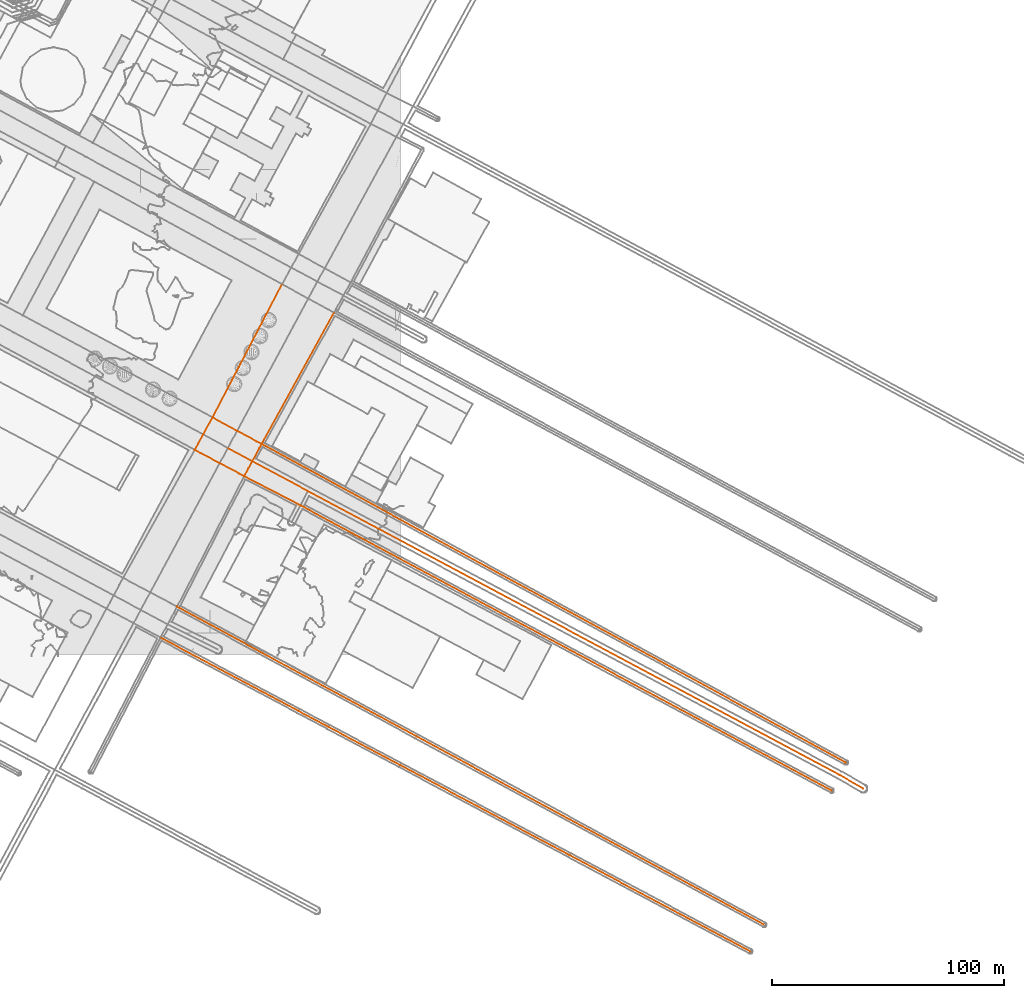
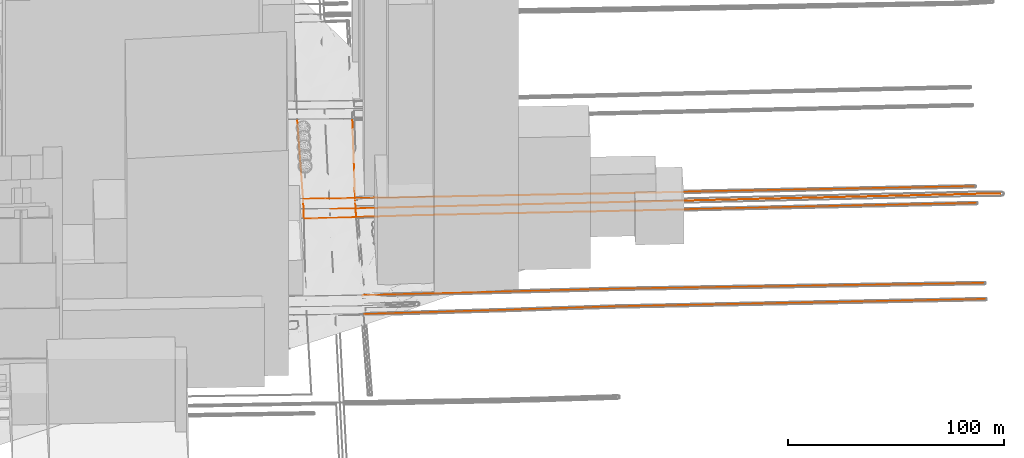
# Not in any storey, part 64 of 76: 11 proxies.
"""IFC2X3 model written with IfcOpenShell, lengths in metres."""

from ifc_helpers import new_model, entity, si_unit, frame, origin_with_axes, place, context, subcontext, project, element, save


model = new_model("IFC2X3")

# Units and contexts
model_context = context("Model", 3, precision=1e-05, world=origin_with_axes())
body_context = subcontext(model_context, "Body", "Model", "MODEL_VIEW")
ifc_project = project(units=[si_unit("AREAUNIT", "SQUARE_METRE"), si_unit("LENGTHUNIT", "METRE")], contexts=[model_context])

# Proxies
proxy_1_placement = place(None, frame((268.6801449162, 7.5070359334, 19.2499281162), z_axis=(0.0, 0.0, 1.0), x_axis=(1.0, 0.0, 0.0)))
element("IfcBuildingElementProxy", 1, at=proxy_1_placement, Name="Route 6", ObjectType="NOTDEFINED", context=body_context, shape_type="GeometricCurveSet", body=[
    entity("IfcGeometricCurveSet", [entity("IfcPolyline", [entity("IfcCartesianPoint", [0.0, 0.0, 0.0]), entity("IfcCartesianPoint", [59.5367895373, -31.6700436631, 0.7634305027]), entity("IfcCartesianPoint", [72.4908163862, -38.5691243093, 1.0172598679]), entity("IfcCartesianPoint", [103.3850234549, -55.0069801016, 1.4969382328]), entity("IfcCartesianPoint", [176.488415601, -93.8899418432, 1.5300706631]), entity("IfcCartesianPoint", [254.451647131, -135.3689274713, 1.5300706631])])]),
])
proxy_2_placement = place(None, frame((312.3134198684, 91.0597884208, 19.0259794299), z_axis=(0.0, 0.0, 1.0), x_axis=(1.0, 0.0, 0.0)))
element("IfcBuildingElementProxy", 2, at=proxy_2_placement, Name="Route 12", ObjectType="NOTDEFINED", context=body_context, shape_type="GeometricCurveSet", body=[
    entity("IfcGeometricCurveSet", [entity("IfcPolyline", [entity("IfcCartesianPoint", [0.0, 0.0, 0.0]), entity("IfcCartesianPoint", [252.050802, -137.416036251, 1.7540193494])])]),
])
proxy_3_placement = place(None, frame((297.7553175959, 89.2915826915, 19.0604681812), z_axis=(0.0, 0.0, 1.0), x_axis=(1.0, 0.0, 0.0)))
element("IfcBuildingElementProxy", 3, at=proxy_3_placement, Name="Route 13", ObjectType="NOTDEFINED", context=body_context, shape_type="GeometricCurveSet", body=[
    entity("IfcGeometricCurveSet", [entity("IfcPolyline", [entity("IfcCartesianPoint", [0.0, 0.0, 0.0]), entity("IfcCartesianPoint", [10.5589808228, -5.6724575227, 0.0619241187]), entity("IfcCartesianPoint", [34.5142174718, -18.5386045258, 0.3927505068]), entity("IfcCartesianPoint", [263.8944051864, -141.030817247, 1.7195305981]), entity("IfcCartesianPoint", [274.2029087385, -146.9056740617, 1.7195305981])])]),
])
proxy_4_placement = place(None, frame((304.8273657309, 77.1392212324, 19.3971872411), z_axis=(0.0, 0.0, 1.0), x_axis=(1.0, 0.0, 0.0)))
element("IfcBuildingElementProxy", 4, at=proxy_4_placement, Name="Route 14", ObjectType="NOTDEFINED", context=body_context, shape_type="GeometricCurveSet", body=[
    entity("IfcGeometricCurveSet", [entity("IfcPolyline", [entity("IfcCartesianPoint", [0.0, 0.0, 0.0]), entity("IfcCartesianPoint", [23.4401593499, -12.1283051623, 0.1413817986]), entity("IfcCartesianPoint", [24.2387379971, -12.5630962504, 0.1592958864]), entity("IfcCartesianPoint", [253.4146507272, -135.6240112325, 1.3828115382])])]),
])
proxy_5_placement = place(None, frame((275.8442647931, 20.8131907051, 19.3619899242), z_axis=(0.0, 0.0, 1.0), x_axis=(1.0, 0.0, 0.0)))
element("IfcBuildingElementProxy", 5, at=proxy_5_placement, Name="Route 15", ObjectType="NOTDEFINED", context=body_context, shape_type="GeometricCurveSet", body=[
    entity("IfcGeometricCurveSet", [entity("IfcPolyline", [entity("IfcCartesianPoint", [253.2904956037, -137.1696919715, 1.418008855]), entity("IfcCartesianPoint", [103.2944743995, -55.9405224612, 1.418008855]), entity("IfcCartesianPoint", [0.0, 0.0, 0.0])])]),
])
proxy_6_placement = place(None, frame((291.1099213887, 102.5036311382, 19.0963599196), z_axis=(0.0, 0.0, 1.0), x_axis=(1.0, 0.0, 0.0)))
element("IfcBuildingElementProxy", 6, at=proxy_6_placement, Name="Route 40", ObjectType="NOTDEFINED", context=body_context, shape_type="GeometricCurveSet", body=[
    entity("IfcGeometricCurveSet", [entity("IfcPolyline", [entity("IfcCartesianPoint", [30.0161975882, 57.4594671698, -0.5590079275]), entity("IfcCartesianPoint", [0.0, 0.0, 0.0])])]),
])
proxy_7_placement = place(None, frame((312.3134198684, 91.0597884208, 19.0259794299), z_axis=(0.0, 0.0, 1.0), x_axis=(1.0, 0.0, 0.0)))
element("IfcBuildingElementProxy", 7, at=proxy_7_placement, Name="Route 41", ObjectType="NOTDEFINED", context=body_context, shape_type="GeometricCurveSet", body=[
    entity("IfcGeometricCurveSet", [entity("IfcPolyline", [entity("IfcCartesianPoint", [31.2327616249, 56.6410549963, -0.4710707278]), entity("IfcCartesianPoint", [0.0, 0.0, 0.0])])]),
])
proxy_8_placement = place(None, frame((291.1099213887, 102.5036311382, 19.0963599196), z_axis=(0.0, 0.0, 1.0), x_axis=(1.0, 0.0, 0.0)))
element("IfcBuildingElementProxy", 8, at=proxy_8_placement, Name="Route 42", ObjectType="NOTDEFINED", context=body_context, shape_type="GeometricCurveSet", body=[
    entity("IfcGeometricCurveSet", [entity("IfcPolyline", [entity("IfcCartesianPoint", [0.0, 0.0, 0.0]), entity("IfcCartesianPoint", [10.6280315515, -5.8048897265, -0.0299836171]), entity("IfcCartesianPoint", [19.1475905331, -10.3242460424, -0.0906770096]), entity("IfcCartesianPoint", [21.2034984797, -11.4438427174, -0.0703804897])])]),
])
proxy_9_placement = place(None, frame((283.4471070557, 88.5366195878, 19.0902935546), z_axis=(0.0, 0.0, 1.0), x_axis=(1.0, 0.0, 0.0)))
element("IfcBuildingElementProxy", 9, at=proxy_9_placement, Name="Route 43", ObjectType="NOTDEFINED", context=body_context, shape_type="GeometricCurveSet", body=[
    entity("IfcGeometricCurveSet", [entity("IfcPolyline", [entity("IfcCartesianPoint", [0.0, 0.0, 0.0]), entity("IfcCartesianPoint", [1.5208777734, 2.7821633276, 0.0133863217]), entity("IfcCartesianPoint", [3.6371942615, 6.6259719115, 0.0155410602]), entity("IfcCartesianPoint", [7.662814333, 13.9670115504, 0.006066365])])]),
])
proxy_10_placement = place(None, frame((304.8273657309, 77.1392212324, 19.3971872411), z_axis=(0.0, 0.0, 1.0), x_axis=(1.0, 0.0, 0.0)))
element("IfcBuildingElementProxy", 10, at=proxy_10_placement, Name="Route 44", ObjectType="NOTDEFINED", context=body_context, shape_type="GeometricCurveSet", body=[
    entity("IfcGeometricCurveSet", [entity("IfcPolyline", [entity("IfcCartesianPoint", [7.4860541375, 13.9205671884, -0.3712078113]), entity("IfcCartesianPoint", [6.3869919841, 11.8871602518, -0.3860498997]), entity("IfcCartesianPoint", [3.4869326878, 6.4799039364, -0.2747949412]), entity("IfcCartesianPoint", [1.7604773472, 3.2290475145, -0.212306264]), entity("IfcCartesianPoint", [0.0, 0.0, 0.0])])]),
])
proxy_11_placement = place(None, frame((283.4471070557, 88.5366195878, 19.0902935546), z_axis=(0.0, 0.0, 1.0), x_axis=(1.0, 0.0, 0.0)))
element("IfcBuildingElementProxy", 11, at=proxy_11_placement, Name="Route 45", ObjectType="NOTDEFINED", context=body_context, shape_type="GeometricCurveSet", body=[
    entity("IfcGeometricCurveSet", [entity("IfcPolyline", [entity("IfcCartesianPoint", [21.3802586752, -11.3973983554, 0.3068936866]), entity("IfcCartesianPoint", [19.2734467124, -10.256187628, 0.1649030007]), entity("IfcCartesianPoint", [10.8047782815, -5.7584345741, 0.0169097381]), entity("IfcCartesianPoint", [2.5743918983, -1.4244325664, 0.0254734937]), entity("IfcCartesianPoint", [0.0, 0.0, 0.0])])]),
])

save(model, "model.ifc")
